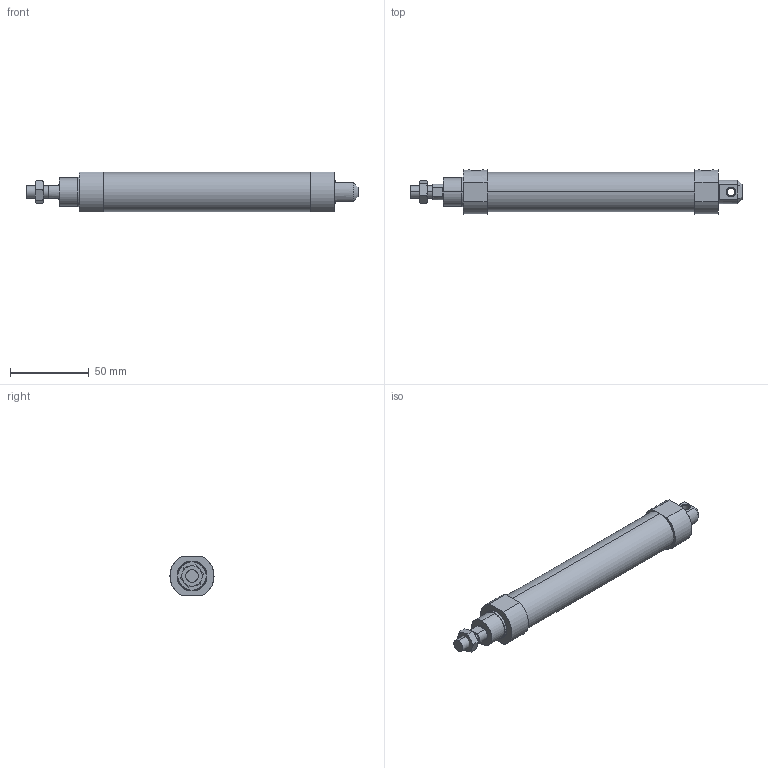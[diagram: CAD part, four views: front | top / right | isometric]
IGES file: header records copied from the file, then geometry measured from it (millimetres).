
Start section: SolidWorks IGES file using analytic representation for surfaces
Global section: file name: C:\Users\Toshiba\Desktop\J#2-20-100-C.IGS; native system: SolidWorks 2014; preprocessor: SolidWorks 2014; author: Toshiba; date: 160308.150127; units: millimetre
Bounding box: 211 x 28 x 25 mm (x, y, z)
Surface area: 17658.7 mm2 (no closed solid volume)
Topology: 0 solids, 0 shells, 78 faces, 1284 edges, 1284 vertices
Faces by surface type: bspline 48, revolution 30
